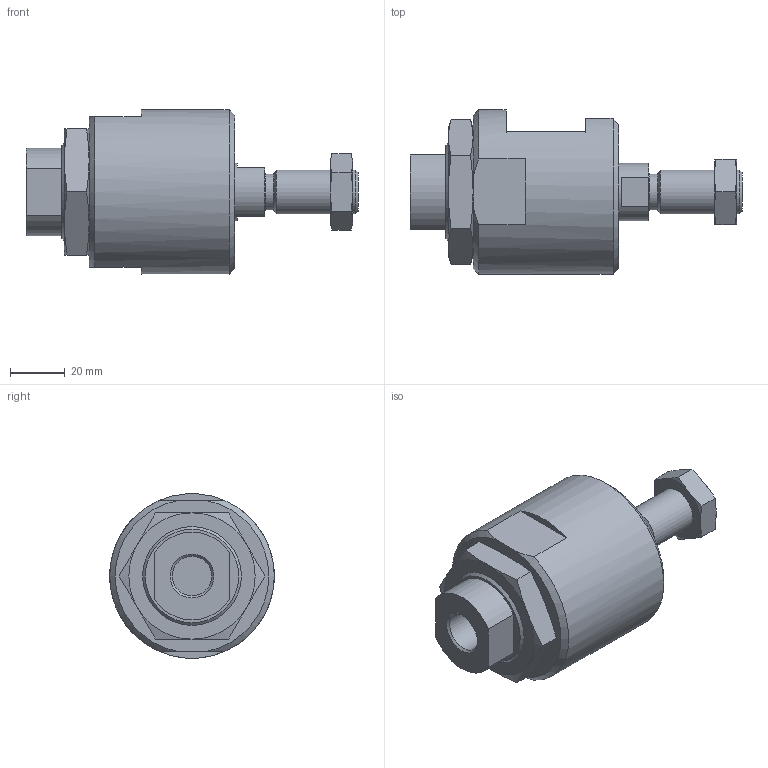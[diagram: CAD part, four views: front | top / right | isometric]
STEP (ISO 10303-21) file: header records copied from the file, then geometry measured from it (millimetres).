
FILE_DESCRIPTION( ( 'STEP AP203' ), '1' );
FILE_NAME( 'C:/Temp/Ganter_Step_05_03_2020/data/3_6/gn240_2/Rapid plug-in coupling GN 240.2-M16x1,5 (0).stp', '2020-03-12T14:08:25', ( 'License CC BY-ND 4.0' ), ( 'CADENAS' ), ' ', 'PARTsolutions', ' ' );
FILE_SCHEMA( ( 'CONFIG_CONTROL_DESIGN' ) );
Length unit declared in the file: millimetre
Products named in the file (4): Rapid plug-in coupling GN 240.2-M16x1,5 (0); _Rapid plug-in coupling GN 240.2-M16x1,5 (0)-1; _Rapid plug-in coupling GN 240.2-M16x1,5 (0)-5; _Rapid plug-in coupling GN 240.2-M16x1,5 (0)-4
Assembly tree (3 placements, depth 2):
  Rapid plug-in coupling GN 240.2-M16x1,5 (0)
    _Rapid plug-in coupling GN 240.2-M16x1,5 (0)-1
    _Rapid plug-in coupling GN 240.2-M16x1,5 (0)-5
    _Rapid plug-in coupling GN 240.2-M16x1,5 (0)-4
Bounding box: 121 x 60 x 59.86 mm (x, y, z)
Volume: 149076.4 mm3; surface area: 34648.6 mm2
Topology: 3 solids, 3 shells, 92 faces, 201 edges, 123 vertices
Faces by surface type: plane 42, cone 35, cylinder 12, torus 2, sphere 1
Full cylindrical faces by diameter (mm): 13 x1, 14.376 x2, 16 x1, 21 x1, 37.5 x2, 60 x1
Entity records: 2671 total; most frequent: CARTESIAN_POINT 657, DIRECTION 390, ORIENTED_EDGE 358, EDGE_CURVE 179, AXIS2_PLACEMENT_3D 169, EDGE_LOOP 123, VERTEX_POINT 120, FACE_OUTER_BOUND 103
